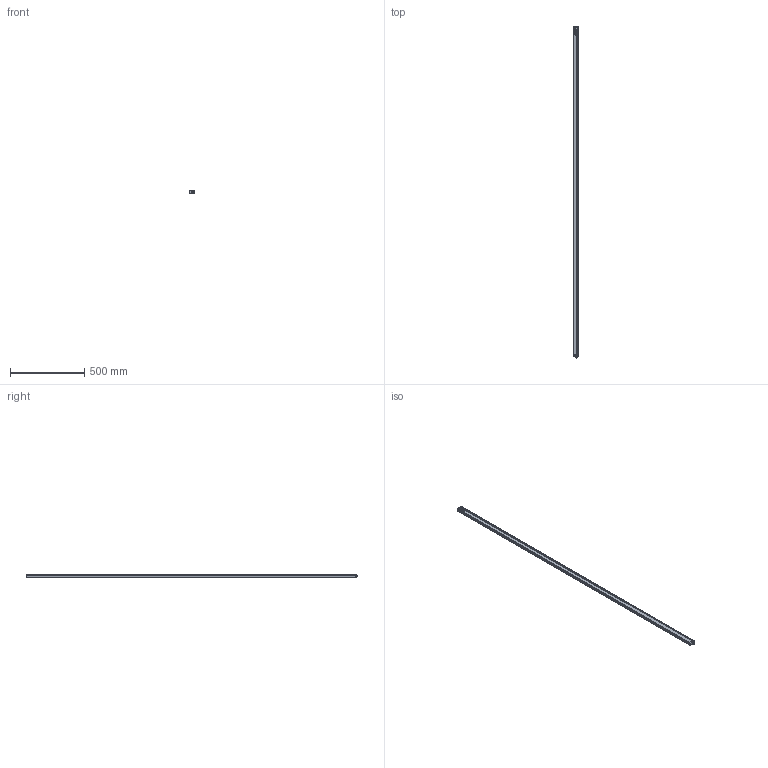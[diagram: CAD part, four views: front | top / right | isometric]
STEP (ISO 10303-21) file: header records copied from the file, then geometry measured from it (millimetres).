
FILE_DESCRIPTION(/* description */ (''),/* implementation_level */ '2;1');
FILE_NAME(/* name */ 'C:\Users\andre\SynologyDrive\Optoscan\Libreria Componenti\00 - Barriere\Polaris sorgente\Barriera Polaris RX\Polaris_2210_RX.stp',/* time_stamp */ '2021-06-04T12:08:30+02:00',/* author */ ('andre'),/* organization */ (''),/* preprocessor_version */ 'ST-DEVELOPER v18',/* originating_system */ 'Autodesk Inventor 2020',/* authorisation */ '');
FILE_SCHEMA (('AUTOMOTIVE_DESIGN { 1 0 10303 214 3 1 1 }','TECHNICAL_DATA_PACKAGING','PROCESS_PLANNING_SCHEMA'));
Length unit declared in the file: millimetre
Products named in the file (1): Polaris_2210_RX
Bounding box: 40.5 x 2241.3 x 20.75 mm (x, y, z)
Volume: 440995.7 mm3; surface area: 585736.5 mm2
Topology: 1 solids, 1 shells, 700 faces, 1926 edges, 1237 vertices
Faces by surface type: plane 319, cylinder 199, bspline 94, torus 70, sphere 10, cone 8
Full cylindrical faces by diameter (mm): 1 x8, 2.459 x4, 2.5 x4, 3 x4, 3.5 x4, 5.5 x4, 8 x1, 10.5 x2, 11.75 x9, 15.7 x1, 17.5 x1
Entity records: 28472 total; most frequent: CARTESIAN_POINT 10246, ORIENTED_EDGE 3826, DIRECTION 3447, EDGE_CURVE 1913, VERTEX_POINT 1237, AXIS2_PLACEMENT_3D 1211, LINE 1025, VECTOR 1025
